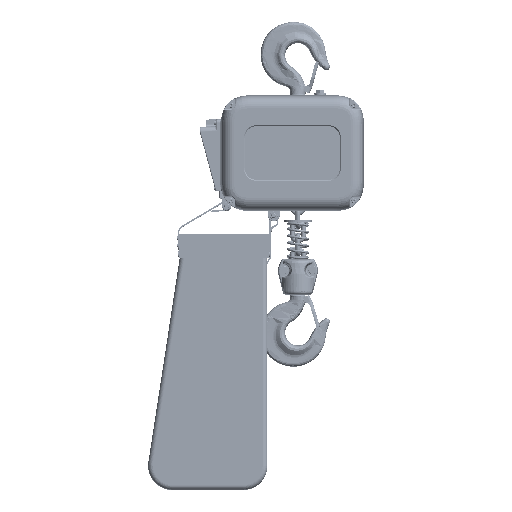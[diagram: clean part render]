
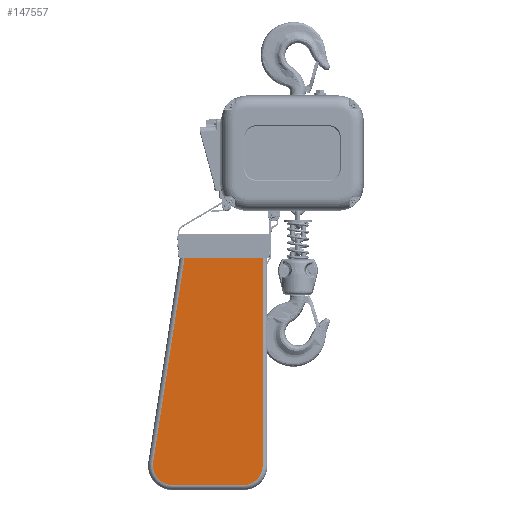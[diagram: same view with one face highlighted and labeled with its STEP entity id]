
A CAD part, top view. The second image highlights one B-rep face of the part: STEP entity #147557.
In plain terms, the highlighted planar face has unit normal (0, 0, 1).
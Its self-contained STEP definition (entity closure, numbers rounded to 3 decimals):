
#338 = CARTESIAN_POINT ( 'NONE',  ( -148.116, -477.937, 90. ) ) ;
#1666 = VERTEX_POINT ( 'NONE', #107559 ) ;
#13104 = DIRECTION ( 'NONE',  ( 0., 0., 1. ) ) ;
#14501 = CARTESIAN_POINT ( 'NONE',  ( -148.116, -477.937, 90. ) ) ;
#15147 = ORIENTED_EDGE ( 'NONE', *, *, #180193, .F. ) ;
#17276 = VERTEX_POINT ( 'NONE', #108211 ) ;
#17448 = VECTOR ( 'NONE', #97434, 1000. ) ;
#17989 = ORIENTED_EDGE ( 'NONE', *, *, #50639, .T. ) ;
#21967 = CARTESIAN_POINT ( 'NONE',  ( 40., -524., 90. ) ) ;
#24204 = VECTOR ( 'NONE', #169040, 1000. ) ;
#25146 = FACE_OUTER_BOUND ( 'NONE', #157208, .T. ) ;
#26303 = CARTESIAN_POINT ( 'NONE',  ( 80., -484., 90. ) ) ;
#34246 = DIRECTION ( 'NONE',  ( 1., 0., 0. ) ) ;
#40446 = DIRECTION ( 'NONE',  ( 0., 0., 1. ) ) ;
#46982 = AXIS2_PLACEMENT_3D ( 'NONE', #165637, #40446, #153106 ) ;
#49915 = VERTEX_POINT ( 'NONE', #21967 ) ;
#50639 = EDGE_CURVE ( 'NONE', #133909, #133556, #129038, .T. ) ;
#54619 = LINE ( 'NONE', #115693, #17448 ) ;
#62787 = EDGE_CURVE ( 'NONE', #49915, #133013, #97827, .T. ) ;
#63620 = DIRECTION ( 'NONE',  ( 0., 0., 1. ) ) ;
#72243 = DIRECTION ( 'NONE',  ( 1., 0., 0. ) ) ;
#77713 = LINE ( 'NONE', #338, #195542 ) ;
#81357 = ORIENTED_EDGE ( 'NONE', *, *, #132011, .T. ) ;
#84728 = AXIS2_PLACEMENT_3D ( 'NONE', #106795, #13104, #72243 ) ;
#89602 = LINE ( 'NONE', #153768, #24204 ) ;
#97434 = DIRECTION ( 'NONE',  ( 1., 0., 0. ) ) ;
#97827 = CIRCLE ( 'NONE', #84728, 40. ) ;
#106795 = CARTESIAN_POINT ( 'NONE',  ( 40., -484., 90. ) ) ;
#107559 = CARTESIAN_POINT ( 'NONE',  ( -82.492, -50.013, 90. ) ) ;
#108211 = CARTESIAN_POINT ( 'NONE',  ( 80., -50.013, 90. ) ) ;
#108451 = DIRECTION ( 'NONE',  ( 1., 0., 0. ) ) ;
#112486 = CARTESIAN_POINT ( 'NONE',  ( -108.578, -524., 90. ) ) ;
#115693 = CARTESIAN_POINT ( 'NONE',  ( 40., -524., 90. ) ) ;
#115990 = AXIS2_PLACEMENT_3D ( 'NONE', #139982, #63620, #108451 ) ;
#117765 = PLANE ( 'NONE',  #46982 ) ;
#121239 = EDGE_CURVE ( 'NONE', #133013, #17276, #89602, .T. ) ;
#128419 = ORIENTED_EDGE ( 'NONE', *, *, #184626, .T. ) ;
#129038 = CIRCLE ( 'NONE', #115990, 40. ) ;
#132011 = EDGE_CURVE ( 'NONE', #133556, #49915, #54619, .T. ) ;
#133013 = VERTEX_POINT ( 'NONE', #26303 ) ;
#133556 = VERTEX_POINT ( 'NONE', #112486 ) ;
#133909 = VERTEX_POINT ( 'NONE', #14501 ) ;
#139982 = CARTESIAN_POINT ( 'NONE',  ( -108.578, -484., 90. ) ) ;
#147557 = ADVANCED_FACE ( 'NONE', ( #25146 ), #117765, .T. ) ;
#153106 = DIRECTION ( 'NONE',  ( 1., 0., 0. ) ) ;
#153768 = CARTESIAN_POINT ( 'NONE',  ( 80., -50.013, 90. ) ) ;
#157208 = EDGE_LOOP ( 'NONE', ( #162311, #180213, #15147, #128419, #17989, #81357 ) ) ;
#162311 = ORIENTED_EDGE ( 'NONE', *, *, #62787, .T. ) ;
#165637 = CARTESIAN_POINT ( 'NONE',  ( 90.005, -50.013, 90. ) ) ;
#169040 = DIRECTION ( 'NONE',  ( 0., 1., 0. ) ) ;
#173754 = LINE ( 'NONE', #174770, #182607 ) ;
#174770 = CARTESIAN_POINT ( 'NONE',  ( 90.005, -50.013, 90. ) ) ;
#180193 = EDGE_CURVE ( 'NONE', #1666, #17276, #173754, .T. ) ;
#180213 = ORIENTED_EDGE ( 'NONE', *, *, #121239, .T. ) ;
#182607 = VECTOR ( 'NONE', #34246, 1000. ) ;
#184626 = EDGE_CURVE ( 'NONE', #1666, #133909, #77713, .T. ) ;
#186694 = DIRECTION ( 'NONE',  ( -0.152, -0.988, 0. ) ) ;
#195542 = VECTOR ( 'NONE', #186694, 1000. ) ;
